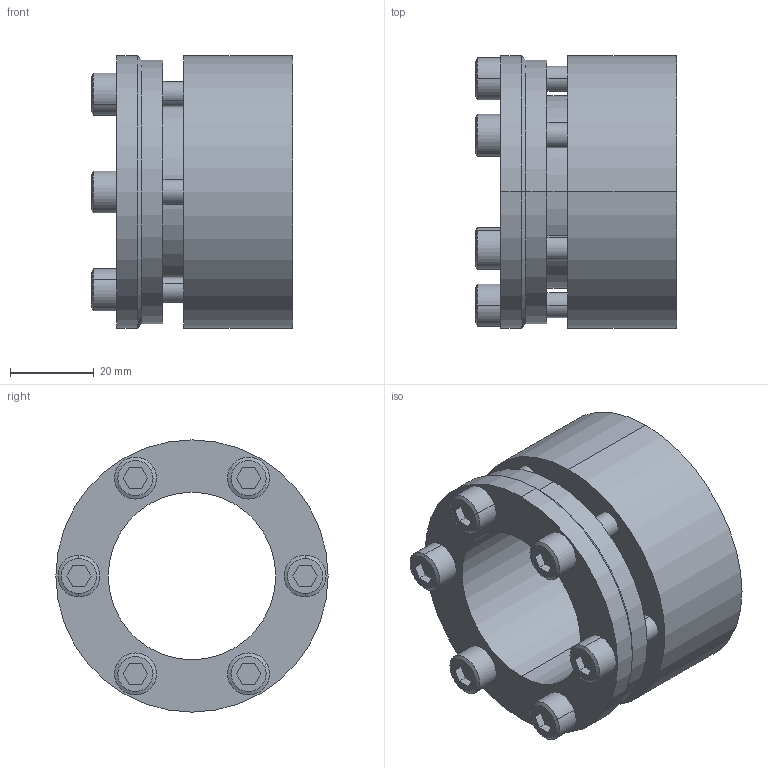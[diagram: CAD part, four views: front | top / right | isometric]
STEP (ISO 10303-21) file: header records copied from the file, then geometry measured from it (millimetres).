
FILE_DESCRIPTION (( 'STEP AP203' ), '1' );
FILE_NAME ('SD-40.step', '2009-09-29T16:30:17', ( 'USER' ), ( 'HOME' ), 'SwSTEP 2.0', 'SolidWorks 2007', '' );
FILE_SCHEMA (( 'CONFIG_CONTROL_DESIGN' ));
Length unit declared in the file: millimetre
Products named in the file (1): SD-40
Bounding box: 48 x 65 x 65 mm (x, y, z)
Volume: 79792.7 mm3; surface area: 29018.5 mm2
Topology: 7 solids, 7 shells, 136 faces, 308 edges, 200 vertices
Faces by surface type: plane 64, cylinder 58, cone 14
Entity records: 3949 total; most frequent: DIRECTION 710, CARTESIAN_POINT 645, ORIENTED_EDGE 616, EDGE_CURVE 308, AXIS2_PLACEMENT_3D 265, VERTEX_POINT 200, VECTOR 180, LINE 180
